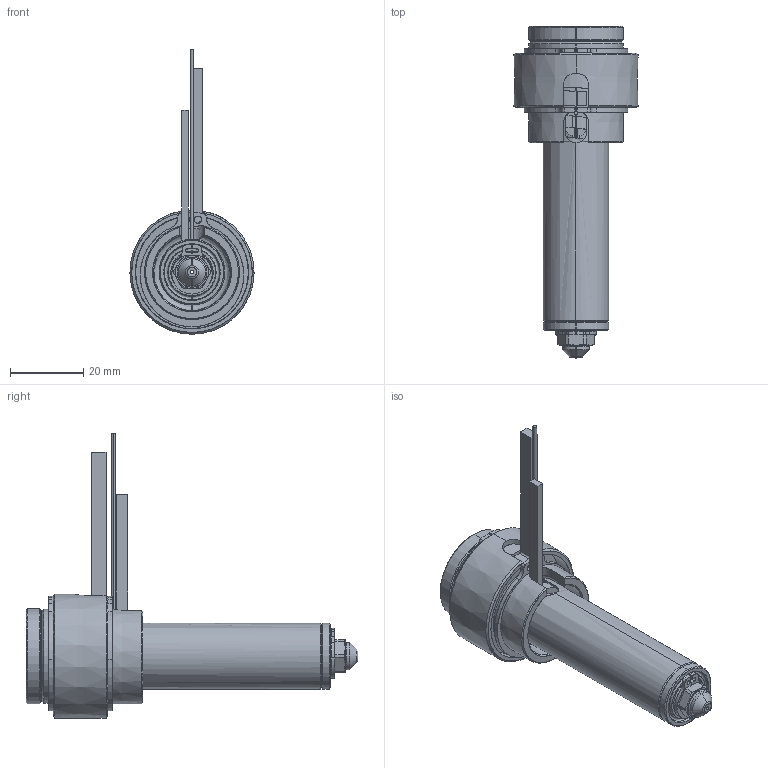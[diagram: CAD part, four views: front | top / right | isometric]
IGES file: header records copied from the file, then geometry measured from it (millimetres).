
Start section: SolidWorks IGES file using analytic representation for surfaces
Global section: file name: C:\Documents and Settings\ws-20\Desktop\TEM\UGER2502-S-A-0 [Øb-0.90 ØC-4.0].IGS; native system: SolidWorks 2012; preprocessor: SolidWorks 2012; author: ws-20; date: 120405.101759; units: millimetre
Bounding box: 34 x 90.9 x 77.9 mm (x, y, z)
Surface area: 24302 mm2 (no closed solid volume)
Topology: 0 solids, 0 shells, 205 faces, 2817 edges, 2817 vertices
Faces by surface type: revolution 129, bspline 76
